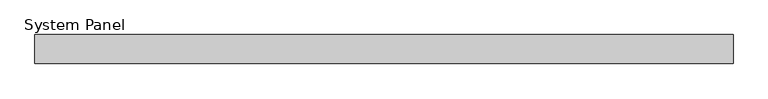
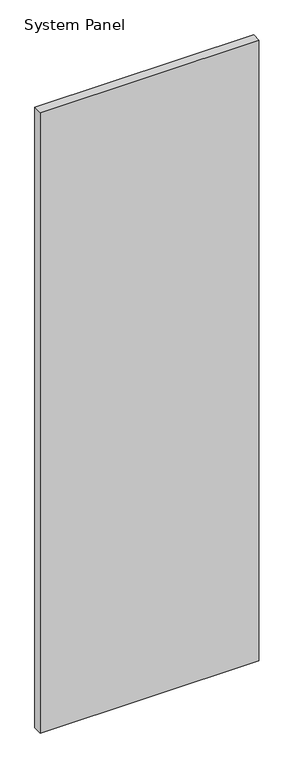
"""IFC4 building model written with IfcOpenShell, lengths in millimetres: plate geometry, System Panel : Equitilt_FlameGuard_50mm_Plain_Surfmist."""

from ifc_helpers import new_model, si_unit, origin, origin_with_axes, place, context, project, spatial, polyline, outline, extrude, source, transform, mapped, element, save


def system_panel_4acd45eb(model_context):
    return source(origin(), model_context, "Body", "SweptSolid", [
        extrude(outline(polyline([(600.0, 0.0), (-600.0, 0.0), (-600.0, 50.0), (600.0, 50.0), (600.0, 0.0)])), origin_with_axes(), (0.0, 0.0, 1.0), 3600.0),
    ])


if __name__ == "__main__":
    model = new_model("IFC4")
    model_context = context("Model", 3, world=origin())
    ifc_project = project(units=[si_unit("LENGTHUNIT", "METRE", prefix="MILLI")], contexts=[model_context])
    site = spatial("IfcSite", under=ifc_project)
    building = spatial("IfcBuilding", under=site)
    placement = place(None, origin())
    system_panel_shape = system_panel_4acd45eb(model_context)
    element("IfcPlate", 1, ObjectType="System Panel : Equitilt_FlameGuard_50mm_Plain_Surfmist", at=placement, inside=building, context=model_context, shape_type="MappedRepresentation", body=[
        mapped(system_panel_shape, transform((0.0, 0.0, 0.0), x_axis=(1.0, 0.0, 0.0), y_axis=(0.0, 1.0, 0.0), z_axis=(0.0, 0.0, 1.0))),
    ])
    save(model, "model.ifc")
